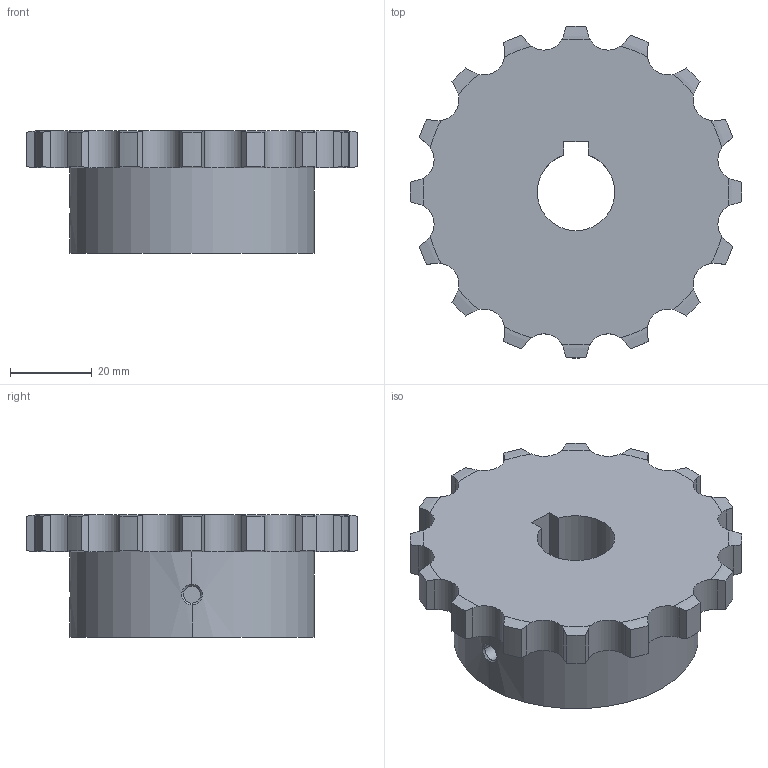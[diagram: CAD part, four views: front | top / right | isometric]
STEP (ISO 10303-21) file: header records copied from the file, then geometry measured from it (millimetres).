
FILE_DESCRIPTION((''),'2;1');
FILE_NAME('510-301-1916-_PRT','2021-02-13T',('Brieden'),('Brieden'),'PRO/ENGINEER BY PARAMETRIC TECHNOLOGY CORPORATION, 2010160','PRO/ENGINEER BY PARAMETRIC TECHNOLOGY CORPORATION, 2010160','');
FILE_SCHEMA(('AUTOMOTIVE_DESIGN { 1 0 10303 214 1 1 1 1 }'));
Length unit declared in the file: millimetre
Products named in the file (1): 510-301-1916-_PRT
Bounding box: 81.35 x 81.35 x 30 mm (x, y, z)
Volume: 90988.2 mm3; surface area: 17673 mm2
Topology: 1 solids, 1 shells, 117 faces, 333 edges, 220 vertices
Faces by surface type: cylinder 71, torus 32, plane 8, bspline 6
Entity records: 5662 total; most frequent: CARTESIAN_POINT 1735, ORIENTED_EDGE 666, DIRECTION 521, PRESENTATION_STYLE_ASSIGNMENT 334, STYLED_ITEM 334, CURVE_STYLE 333, EDGE_CURVE 333, VERTEX_POINT 220
